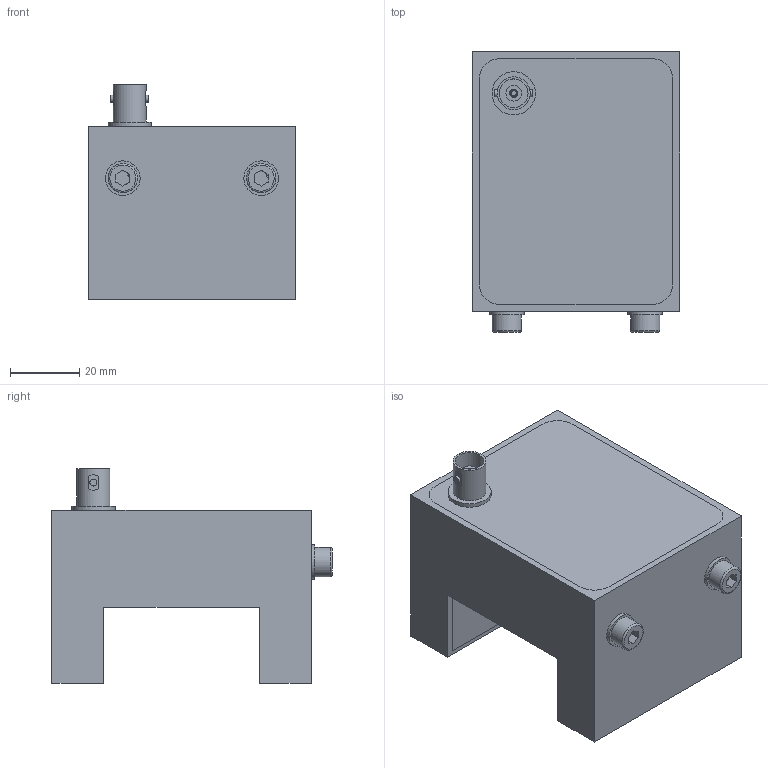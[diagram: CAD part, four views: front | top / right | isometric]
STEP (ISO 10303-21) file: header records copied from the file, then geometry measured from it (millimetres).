
FILE_DESCRIPTION(/* description */ (''),/* implementation_level */ '2;1');
FILE_NAME(/* name */ 'G:\Bibliotheken\CAD_Daten_MERP\301498\301498_Antenne_9E_2026-08-25-114200.stp',/* time_stamp */ '2026-08-25T11:42:01+02:00',/* author */ ('marquardt'),/* organization */ (''),/* preprocessor_version */ 'ST-DEVELOPER v18.1',/* originating_system */ 'Autodesk Inventor 2021',/* authorisation */ '');
FILE_SCHEMA (('AUTOMOTIVE_DESIGN { 1 0 10303 214 3 1 1 }'));
Length unit declared in the file: millimetre
Products named in the file (7): 301498_Antenne_9E; 202823_Antennengehaeuse_9E; 301498-01_Verguß 9E; ISO 7046-1 - M2,5 x 3 - 4.8 - H; 201097; ISO 7089 - 5; ISO 4762 - M5 x 10
Assembly tree (8 placements, depth 2):
  301498_Antenne_9E
    202823_Antennengehaeuse_9E
    301498-01_Verguß 9E
    ISO 7046-1 - M2,5 x 3 - 4.8 - H
    201097
    ISO 7089 - 5  x2
    ISO 4762 - M5 x 10  x2
Bounding box: 60 x 81 x 62 mm (x, y, z)
Volume: 170671.6 mm3; surface area: 48202.6 mm2
Topology: 8 solids, 8 shells, 153 faces, 370 edges, 246 vertices
Faces by surface type: plane 81, cylinder 43, cone 19, torus 10
Full cylindrical faces by diameter (mm): 1.3 x1, 1.5 x1, 2 x3, 2.224 x1, 2.3 x1, 2.4 x1, 2.5 x1, 2.7 x1, 4.5 x1, 4.7 x1, 5 x4, 5.3 x2, 5.5 x2, 8.3 x1, 8.5 x2, 9.5 x1, 10 x2, 12.5 x1
Entity records: 4443 total; most frequent: CARTESIAN_POINT 937, DIRECTION 690, ORIENTED_EDGE 650, EDGE_CURVE 325, AXIS2_PLACEMENT_3D 258, VERTEX_POINT 218, LINE 174, VECTOR 174
